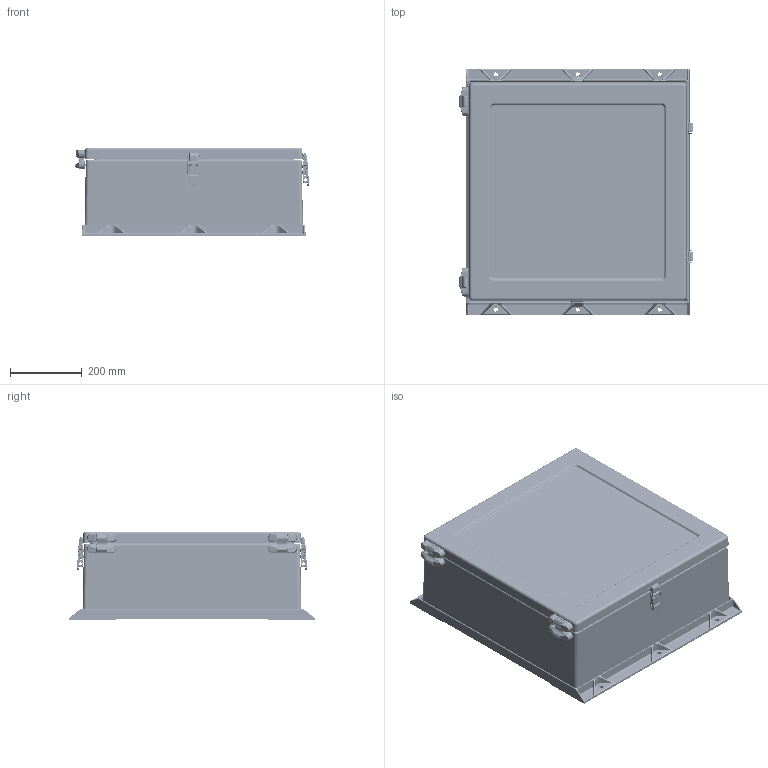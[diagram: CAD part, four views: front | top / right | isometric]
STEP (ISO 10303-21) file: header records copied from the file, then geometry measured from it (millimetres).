
FILE_DESCRIPTION (( 'STEP AP203' ), '1' );
FILE_NAME ('a24h2008gqrlp.STEP', '2012-03-19T15:55:03', ( 'Hoffman User' ), ( 'Hoffman Enclosures' ), 'SwSTEP 2.0', 'SolidWorks 2010', '' );
FILE_SCHEMA (( 'CONFIG_CONTROL_DESIGN' ));
Products named in the file (22): a24h2008gqrlp; 87926966; 87935464_87935456; 87926957; 87759496_87759496 DOOR CLOSED; 22293001; 87955618; 22292001; 87955597; 87955576; 87949218; 87926982; 87949253; 87949198_87949198; 87951276_Closed angled bail; 87951273_87951273; 87951274_87951274; 14241007_14241007; 87949197_87949197; 87954688_87954688; 99416061_FLEX; 24352001
Assembly tree (37 placements, depth 4):
  a24h2008gqrlp
    87759496_87759496 DOOR CLOSED  x2
      22293001
        87955576  x2
        87955618
      22292001
        87955576  x2
        87955597
      14241007_14241007
    87951276_Closed angled bail  x4
      87949197_87949197
      14241007_14241007
      87951274_87951274
      87951273_87951273
    87954688_87954688  x4
    99416061_FLEX
      24352001
    87949198_87949198  x4
    87949218
      87926982
      87949253
    87926966
      87926957
      87935464_87935456
Bounding box: 651.85 x 687.32 x 247.9 mm (x, y, z)
Volume: 6715765.7 mm3; surface area: 3471194.1 mm2
Topology: 49 solids, 49 shells, 7395 faces, 18345 edges, 11006 vertices
Faces by surface type: cylinder 2083, bspline 1966, plane 1865, torus 802, cone 394, sphere 285
Entity records: 123902 total; most frequent: CARTESIAN_POINT 52668, ORIENTED_EDGE 15634, DIRECTION 12484, EDGE_CURVE 7817, VERTEX_POINT 4831, AXIS2_PLACEMENT_3D 4333, LINE 3818, VECTOR 3818
